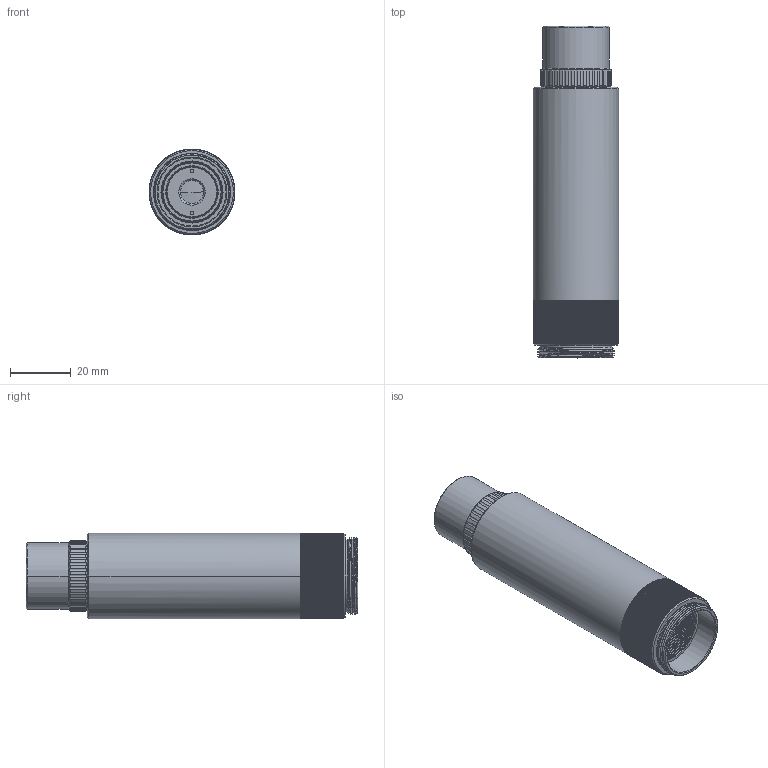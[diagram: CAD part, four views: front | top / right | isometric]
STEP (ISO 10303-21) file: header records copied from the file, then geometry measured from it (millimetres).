
FILE_DESCRIPTION((''),'2;1');
FILE_NAME('TMN_2-5_30','2019-02-12T',('kevin.wileman'),(''),'CREO PARAMETRIC BY PTC INC, 2015480','CREO PARAMETRIC BY PTC INC, 2015480','');
FILE_SCHEMA(('AUTOMOTIVE_DESIGN { 1 0 10303 214 1 1 1 1 }'));
Products named in the file (1): TMN_2-5_30
Bounding box: 28.3 x 109.5 x 28.3 mm (x, y, z)
Volume: 34011.1 mm3; surface area: 24513.2 mm2
Topology: 1 solids, 1 shells, 2039 faces, 5920 edges, 3899 vertices
Faces by surface type: plane 1344, cylinder 464, bspline 171, cone 50, torus 6, sphere 4
Entity records: 182051 total; most frequent: CARTESIAN_POINT 131042, ORIENTED_EDGE 11832, DIRECTION 8503, EDGE_CURVE 5916, VERTEX_POINT 3899, VECTOR 2967, LINE 2967, AXIS2_PLACEMENT_3D 2768
